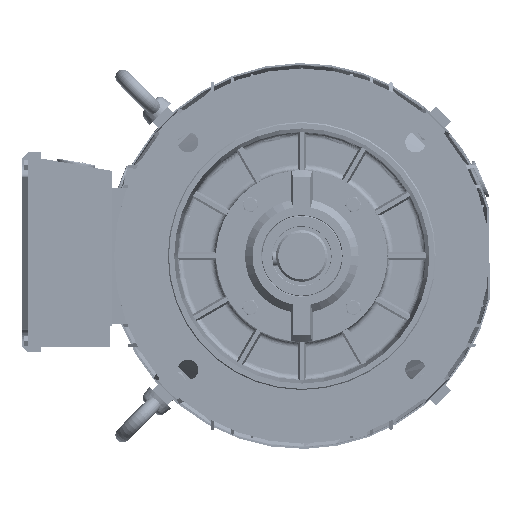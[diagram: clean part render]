
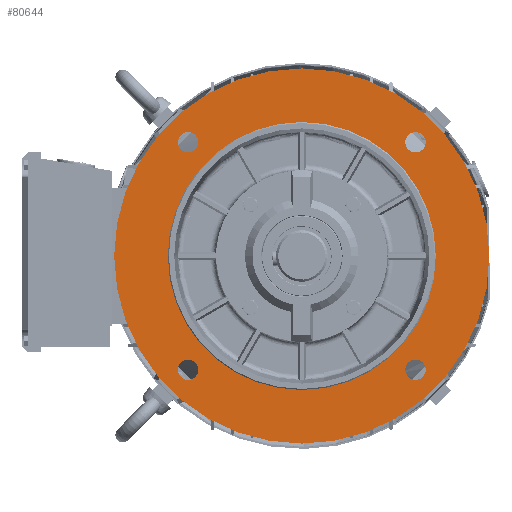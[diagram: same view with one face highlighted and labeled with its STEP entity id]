
A CAD part, left-side view. The second image highlights one B-rep face of the part: STEP entity #80644.
In plain terms, the highlighted planar face has unit normal (-1, 0, 0).
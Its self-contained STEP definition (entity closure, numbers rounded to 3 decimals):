
#481 = VERTEX_POINT ( 'NONE', #154239 ) ;
#960 = AXIS2_PLACEMENT_3D ( 'NONE', #195036, #58956, #63983 ) ;
#8818 = FACE_OUTER_BOUND ( 'NONE', #73563, .T. ) ;
#8834 = ORIENTED_EDGE ( 'NONE', *, *, #187856, .F. ) ;
#9555 = EDGE_CURVE ( 'NONE', #216590, #229641, #140280, .T. ) ;
#12395 = DIRECTION ( 'NONE',  ( -1., 0., 0. ) ) ;
#14561 = CARTESIAN_POINT ( 'NONE',  ( -228.749, 7.75, 0. ) ) ;
#19211 = AXIS2_PLACEMENT_3D ( 'NONE', #236734, #96851, #98126 ) ;
#19495 = EDGE_CURVE ( 'NONE', #232822, #62775, #201816, .T. ) ;
#21878 = CARTESIAN_POINT ( 'NONE',  ( -228.749, -98.316, 115.566 ) ) ;
#22123 = DIRECTION ( 'NONE',  ( 0., 0., -1. ) ) ;
#27027 = ORIENTED_EDGE ( 'NONE', *, *, #99290, .T. ) ;
#27042 = DIRECTION ( 'NONE',  ( -1., 0., 0. ) ) ;
#29326 = FACE_BOUND ( 'NONE', #48612, .T. ) ;
#36239 = CARTESIAN_POINT ( 'NONE',  ( -228.749, 113.816, -106.066 ) ) ;
#39146 = EDGE_LOOP ( 'NONE', ( #248621, #8834 ) ) ;
#41390 = CARTESIAN_POINT ( 'NONE',  ( -228.749, 113.816, 106.066 ) ) ;
#42955 = CIRCLE ( 'NONE', #165863, 175. ) ;
#47339 = CIRCLE ( 'NONE', #67833, 9.5 ) ;
#47416 = EDGE_LOOP ( 'NONE', ( #101490, #135586 ) ) ;
#48612 = EDGE_LOOP ( 'NONE', ( #130125, #146141 ) ) ;
#48942 = EDGE_CURVE ( 'NONE', #168347, #481, #47339, .T. ) ;
#50781 = CIRCLE ( 'NONE', #132715, 9.5 ) ;
#53501 = CARTESIAN_POINT ( 'NONE',  ( -228.749, -98.316, 106.066 ) ) ;
#57228 = DIRECTION ( 'NONE',  ( 0., 0., -1. ) ) ;
#58956 = DIRECTION ( 'NONE',  ( -1., 0., 0. ) ) ;
#62482 = CARTESIAN_POINT ( 'NONE',  ( -228.749, 7.75, -125. ) ) ;
#62775 = VERTEX_POINT ( 'NONE', #165627 ) ;
#63983 = DIRECTION ( 'NONE',  ( 0., 0., -1. ) ) ;
#66595 = CARTESIAN_POINT ( 'NONE',  ( -228.749, -167.25, 0. ) ) ;
#67833 = AXIS2_PLACEMENT_3D ( 'NONE', #136441, #155678, #153139 ) ;
#68350 = DIRECTION ( 'NONE',  ( -1., 0., 0. ) ) ;
#71495 = DIRECTION ( 'NONE',  ( 0., 0., -1. ) ) ;
#72772 = DIRECTION ( 'NONE',  ( -1., 0., 0. ) ) ;
#72780 = DIRECTION ( 'NONE',  ( 0., 0., -1. ) ) ;
#73563 = EDGE_LOOP ( 'NONE', ( #27027, #218498 ) ) ;
#76031 = DIRECTION ( 'NONE',  ( 0., 0., -1. ) ) ;
#77610 = CARTESIAN_POINT ( 'NONE',  ( -228.749, 113.816, 96.566 ) ) ;
#79565 = ORIENTED_EDGE ( 'NONE', *, *, #230589, .F. ) ;
#80644 = ADVANCED_FACE ( 'NONE', ( #8818, #108890, #242463, #247542, #29326, #149928 ), #187218, .F. ) ;
#81535 = AXIS2_PLACEMENT_3D ( 'NONE', #66595, #246257, #85868 ) ;
#82583 = CIRCLE ( 'NONE', #103097, 9.5 ) ;
#83583 = CIRCLE ( 'NONE', #136890, 9.5 ) ;
#85868 = DIRECTION ( 'NONE',  ( 0., -1., 0. ) ) ;
#85924 = AXIS2_PLACEMENT_3D ( 'NONE', #205724, #68350, #146614 ) ;
#88635 = AXIS2_PLACEMENT_3D ( 'NONE', #36239, #154293, #76031 ) ;
#94564 = CARTESIAN_POINT ( 'NONE',  ( -228.749, -98.316, -106.066 ) ) ;
#96851 = DIRECTION ( 'NONE',  ( -1., 0., 0. ) ) ;
#98126 = DIRECTION ( 'NONE',  ( 0., 0., -1. ) ) ;
#99290 = EDGE_CURVE ( 'NONE', #62775, #232822, #42955, .T. ) ;
#101490 = ORIENTED_EDGE ( 'NONE', *, *, #143273, .F. ) ;
#103097 = AXIS2_PLACEMENT_3D ( 'NONE', #136663, #216279, #195742 ) ;
#105420 = VERTEX_POINT ( 'NONE', #21878 ) ;
#108559 = CARTESIAN_POINT ( 'NONE',  ( -228.749, -98.316, 96.566 ) ) ;
#108890 = FACE_BOUND ( 'NONE', #234682, .T. ) ;
#109153 = CIRCLE ( 'NONE', #88635, 9.5 ) ;
#115879 = EDGE_CURVE ( 'NONE', #161422, #137814, #83583, .T. ) ;
#120752 = CIRCLE ( 'NONE', #157737, 9.5 ) ;
#129484 = VERTEX_POINT ( 'NONE', #62482 ) ;
#130125 = ORIENTED_EDGE ( 'NONE', *, *, #209074, .F. ) ;
#132715 = AXIS2_PLACEMENT_3D ( 'NONE', #145090, #27042, #183681 ) ;
#135586 = ORIENTED_EDGE ( 'NONE', *, *, #48942, .F. ) ;
#136441 = CARTESIAN_POINT ( 'NONE',  ( -228.749, 113.816, -106.066 ) ) ;
#136663 = CARTESIAN_POINT ( 'NONE',  ( -228.749, 113.816, 106.066 ) ) ;
#136890 = AXIS2_PLACEMENT_3D ( 'NONE', #190797, #12395, #57228 ) ;
#137814 = VERTEX_POINT ( 'NONE', #222687 ) ;
#140280 = CIRCLE ( 'NONE', #209970, 9.5 ) ;
#142119 = CIRCLE ( 'NONE', #19211, 125. ) ;
#142451 = CARTESIAN_POINT ( 'NONE',  ( -228.749, 113.816, 115.566 ) ) ;
#143273 = EDGE_CURVE ( 'NONE', #481, #168347, #109153, .T. ) ;
#145090 = CARTESIAN_POINT ( 'NONE',  ( -228.749, -98.316, 106.066 ) ) ;
#146141 = ORIENTED_EDGE ( 'NONE', *, *, #164830, .F. ) ;
#146614 = DIRECTION ( 'NONE',  ( 0., 0., -1. ) ) ;
#149928 = FACE_BOUND ( 'NONE', #39146, .T. ) ;
#150578 = DIRECTION ( 'NONE',  ( 0., 0., -1. ) ) ;
#151675 = EDGE_CURVE ( 'NONE', #129484, #203646, #196602, .T. ) ;
#152109 = VERTEX_POINT ( 'NONE', #108559 ) ;
#153139 = DIRECTION ( 'NONE',  ( 0., 0., -1. ) ) ;
#154239 = CARTESIAN_POINT ( 'NONE',  ( -228.749, 113.816, -115.566 ) ) ;
#154293 = DIRECTION ( 'NONE',  ( -1., 0., 0. ) ) ;
#155678 = DIRECTION ( 'NONE',  ( -1., 0., 0. ) ) ;
#157737 = AXIS2_PLACEMENT_3D ( 'NONE', #53501, #72772, #71495 ) ;
#161422 = VERTEX_POINT ( 'NONE', #199552 ) ;
#164830 = EDGE_CURVE ( 'NONE', #105420, #152109, #120752, .T. ) ;
#165627 = CARTESIAN_POINT ( 'NONE',  ( -228.749, 7.75, -175. ) ) ;
#165863 = AXIS2_PLACEMENT_3D ( 'NONE', #14561, #189153, #150578 ) ;
#168162 = CARTESIAN_POINT ( 'NONE',  ( -228.749, 7.75, 175. ) ) ;
#168347 = VERTEX_POINT ( 'NONE', #232415 ) ;
#175542 = ORIENTED_EDGE ( 'NONE', *, *, #115879, .F. ) ;
#175597 = ORIENTED_EDGE ( 'NONE', *, *, #244148, .F. ) ;
#177476 = DIRECTION ( 'NONE',  ( -1., 0., 0. ) ) ;
#183681 = DIRECTION ( 'NONE',  ( 0., 0., -1. ) ) ;
#187075 = DIRECTION ( 'NONE',  ( -1., 0., 0. ) ) ;
#187218 = PLANE ( 'NONE',  #81535 ) ;
#187856 = EDGE_CURVE ( 'NONE', #203646, #129484, #142119, .T. ) ;
#189153 = DIRECTION ( 'NONE',  ( -1., 0., 0. ) ) ;
#190553 = AXIS2_PLACEMENT_3D ( 'NONE', #94564, #187075, #72780 ) ;
#190797 = CARTESIAN_POINT ( 'NONE',  ( -228.749, -98.316, -106.066 ) ) ;
#194986 = EDGE_LOOP ( 'NONE', ( #175597, #175542 ) ) ;
#195036 = CARTESIAN_POINT ( 'NONE',  ( -228.749, 7.75, 0. ) ) ;
#195742 = DIRECTION ( 'NONE',  ( 0., 0., -1. ) ) ;
#196602 = CIRCLE ( 'NONE', #85924, 125. ) ;
#199552 = CARTESIAN_POINT ( 'NONE',  ( -228.749, -98.316, -96.566 ) ) ;
#201816 = CIRCLE ( 'NONE', #960, 175. ) ;
#203646 = VERTEX_POINT ( 'NONE', #206536 ) ;
#205724 = CARTESIAN_POINT ( 'NONE',  ( -228.749, 7.75, 0. ) ) ;
#206536 = CARTESIAN_POINT ( 'NONE',  ( -228.749, 7.75, 125. ) ) ;
#209074 = EDGE_CURVE ( 'NONE', #152109, #105420, #50781, .T. ) ;
#209970 = AXIS2_PLACEMENT_3D ( 'NONE', #41390, #177476, #22123 ) ;
#216279 = DIRECTION ( 'NONE',  ( -1., 0., 0. ) ) ;
#216590 = VERTEX_POINT ( 'NONE', #142451 ) ;
#218498 = ORIENTED_EDGE ( 'NONE', *, *, #19495, .T. ) ;
#222687 = CARTESIAN_POINT ( 'NONE',  ( -228.749, -98.316, -115.566 ) ) ;
#227553 = CIRCLE ( 'NONE', #190553, 9.5 ) ;
#229641 = VERTEX_POINT ( 'NONE', #77610 ) ;
#230589 = EDGE_CURVE ( 'NONE', #229641, #216590, #82583, .T. ) ;
#232415 = CARTESIAN_POINT ( 'NONE',  ( -228.749, 113.816, -96.566 ) ) ;
#232822 = VERTEX_POINT ( 'NONE', #168162 ) ;
#234682 = EDGE_LOOP ( 'NONE', ( #79565, #241521 ) ) ;
#236734 = CARTESIAN_POINT ( 'NONE',  ( -228.749, 7.75, 0. ) ) ;
#241521 = ORIENTED_EDGE ( 'NONE', *, *, #9555, .F. ) ;
#242463 = FACE_BOUND ( 'NONE', #47416, .T. ) ;
#244148 = EDGE_CURVE ( 'NONE', #137814, #161422, #227553, .T. ) ;
#246257 = DIRECTION ( 'NONE',  ( 1., 0., 0. ) ) ;
#247542 = FACE_BOUND ( 'NONE', #194986, .T. ) ;
#248621 = ORIENTED_EDGE ( 'NONE', *, *, #151675, .F. ) ;
